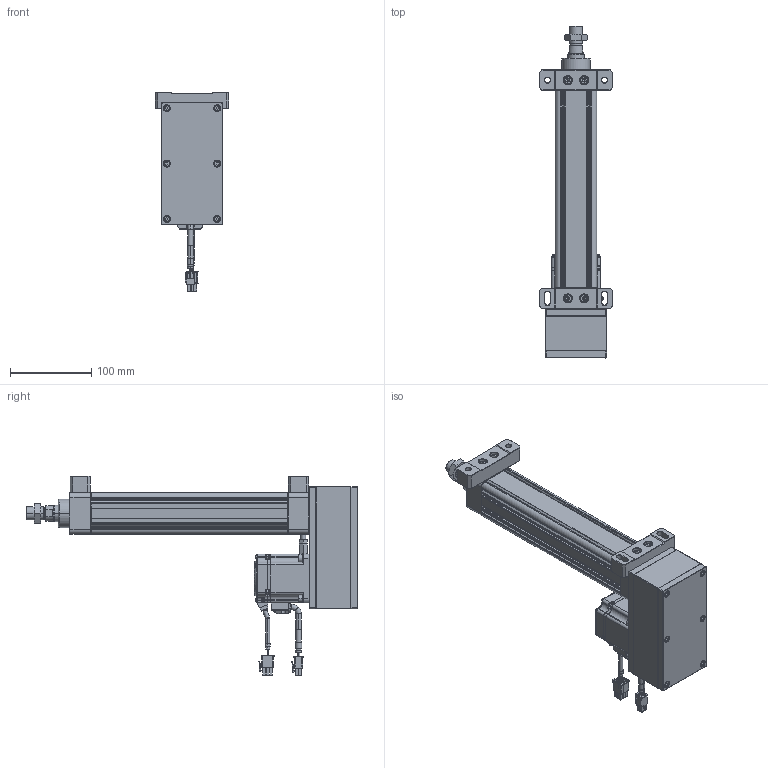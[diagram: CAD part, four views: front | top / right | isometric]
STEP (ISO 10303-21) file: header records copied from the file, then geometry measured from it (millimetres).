
FILE_DESCRIPTION((''),'2;1');
FILE_NAME('HE40-D-100_ASM','2020-05-09T',('ASUS20200'),(''),'CREO PARAMETRIC BY PTC INC, 2014190','CREO PARAMETRIC BY PTC INC, 2014190','');
FILE_SCHEMA(('CONFIG_CONTROL_DESIGN'));
Products named in the file (36): HE40-D-P-001-X1; HE40-D-P-002-X1; HE40-D-P-003-X1; 6200ZZ; SLM-01; YZ-M6X1; JDB202820; HE40-P-010-X1-200W; _MHMF022L1A2; _CABLE_MOTOR_BOTTOM_03; _CABLE_MOTOR_TOP_03; _MOTOR_CONNECTOR_2; _CABLE_BRAKE_BOTTOM_03; _CABLE_BRAKE_TOP_03; _MHMF_CONNECTOR_9_PIN_A6; MHMF022L1A2M2_1_ASM; MHMF022L1A2M2_ASM; JX5X5X20; TD-5; M5X20; LM-M6X1; M6X25; LM-M6-15; M6; HE40-P-012-X2; HE40-P-014-X1; M4X65; HE40-P-015-X1; JX4X4X10; HE40-P-016-X1; M6X20; HE40-D-P-005-X1; HE40-D-P-004-X1; HE40-D-P-008-X1; LGLM-M6-22; HE40-D-100_ASM
Assembly tree (56 placements, depth 4):
  HE40-D-100_ASM
    HE40-D-P-001-X1
    HE40-D-P-002-X1
    HE40-D-P-003-X1
    6200ZZ
    SLM-01
    YZ-M6X1
    JDB202820
    HE40-P-010-X1-200W
    MHMF022L1A2M2_ASM
      MHMF022L1A2M2_1_ASM
        _MHMF022L1A2
        _CABLE_MOTOR_BOTTOM_03
        _CABLE_MOTOR_TOP_03
        _MOTOR_CONNECTOR_2
        _CABLE_BRAKE_BOTTOM_03
        _CABLE_BRAKE_TOP_03
        _MHMF_CONNECTOR_9_PIN_A6
    JX5X5X20
    TD-5  x4
    M5X20  x4
    LM-M6X1  x4
    M6X25
    LM-M6-15
    M6
    HE40-P-012-X2
    HE40-P-014-X1
    M4X65  x6
    HE40-P-015-X1
    JX4X4X10  x2
    HE40-P-016-X1
    M6X20  x4
    HE40-D-P-005-X1
    HE40-D-P-004-X1
    HE40-D-P-008-X1
    LGLM-M6-22  x4
Bounding box: 90 x 407.5 x 244.7 mm (x, y, z)
Volume: 1006761.6 mm3; surface area: 364538 mm2
Topology: 54 solids, 85 shells, 3157 faces, 7517 edges, 4617 vertices
Faces by surface type: plane 1380, cylinder 837, cone 746, torus 158, sphere 34, bspline 2
Entity records: 80258 total; most frequent: CARTESIAN_POINT 15060, DIRECTION 14255, ORIENTED_EDGE 12798, EDGE_CURVE 6455, AXIS2_PLACEMENT_3D 5278, VERTEX_POINT 4003, VECTOR 3699, LINE 3699
